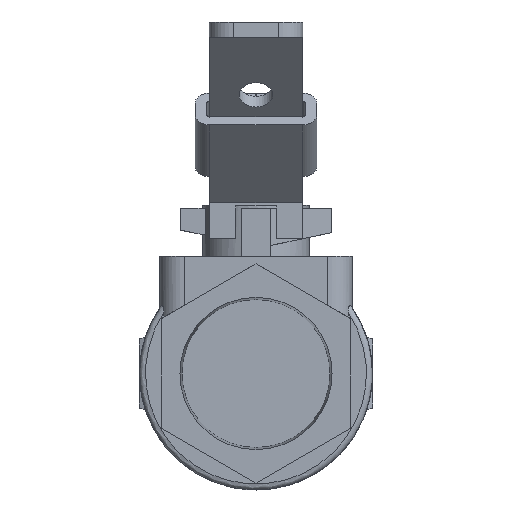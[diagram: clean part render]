
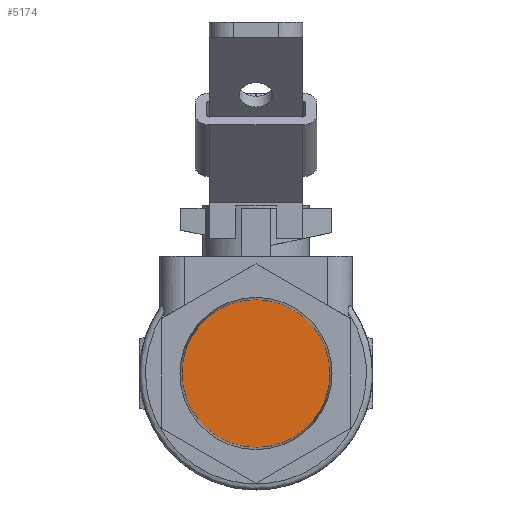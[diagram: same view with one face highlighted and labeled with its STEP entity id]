
A CAD part, left-side view. The second image highlights one B-rep face of the part: STEP entity #5174.
In plain terms, the highlighted free-form (B-spline) face has degree [1, 1] with [2, 2] control points.
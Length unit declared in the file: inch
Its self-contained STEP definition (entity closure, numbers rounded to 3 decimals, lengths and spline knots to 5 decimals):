
#5158=CARTESIAN_POINT('',(0.6809,0.77042,0.77042));
#5159=CARTESIAN_POINT('',(0.6809,-0.77042,0.77042));
#5160=CARTESIAN_POINT('',(0.6809,0.77042,-0.77042));
#5161=CARTESIAN_POINT('',(0.6809,-0.77042,-0.77042));
#5162=B_SPLINE_SURFACE_WITH_KNOTS('',1,1,((#5158,#5160),(#5159,#5161)),.UNSPECIFIED.,.F.,.F.,.U.,(2,2),(2,2),(0.0,1.54083),(0.0,1.54083),.UNSPECIFIED.);
#5163=CARTESIAN_POINT('',(0.6809,0.77042,0.0));
#5164=VERTEX_POINT('',#5163);
#5165=CARTESIAN_POINT('',(0.6809,0.0,0.0));
#5166=DIRECTION('',(1.0,0.0,0.0));
#5167=DIRECTION('',(0.0,1.0,0.0));
#5168=AXIS2_PLACEMENT_3D('',#5165,#5166,#5167);
#5169=CIRCLE('',#5168,0.77042);
#5170=EDGE_CURVE('',#5164,#5164,#5169,.T.);
#5171=ORIENTED_EDGE('',*,*,#5170,.F.);
#5172=EDGE_LOOP('',(#5171));
#5173=FACE_OUTER_BOUND('',#5172,.T.);
#5174=ADVANCED_FACE('',(#5173),#5162,.F.);
